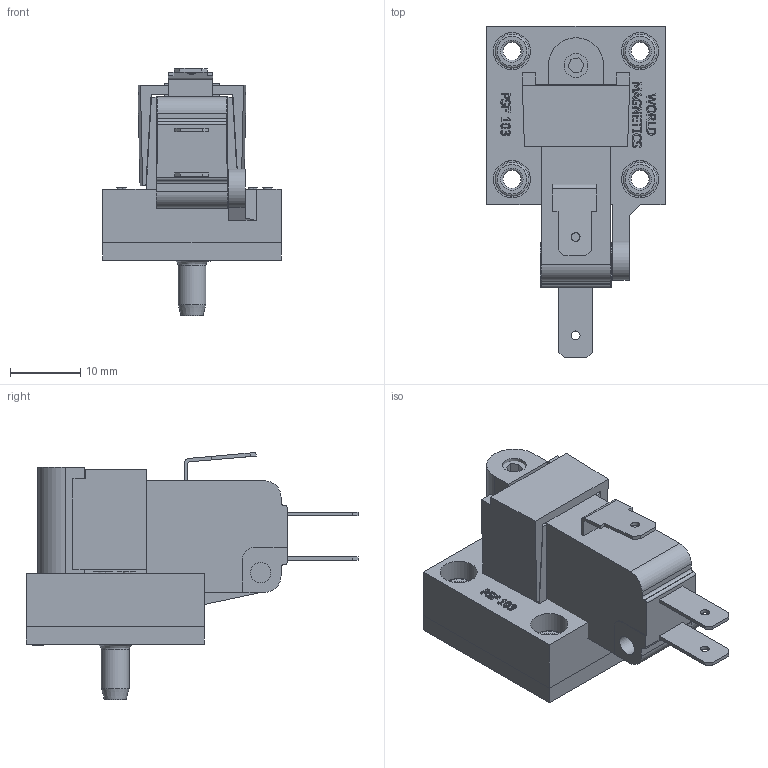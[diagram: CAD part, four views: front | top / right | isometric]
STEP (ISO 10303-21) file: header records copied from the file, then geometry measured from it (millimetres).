
FILE_DESCRIPTION((''),'2;1');
FILE_NAME('G:\DRAWINGS\SWITCH\INVENTOR DRAWINGS\WORLD MAGNETICS SWITCH\WM SALES STP FILES\901X.stp','2011-05-19T12:09:31',('dale'),(''),'Autodesk Inventor 2009','Autodesk Inventor 2009','');
FILE_SCHEMA(('AUTOMOTIVE_DESIGN { 1 0 10303 214 1 1 1 1 }'));
Length unit declared in the file: inch
Products named in the file (7): 901X; 60942-STP; 60813-STP; 60339-STP; 60193; 60016; 60344
Assembly tree (9 placements, depth 2):
  901X
    60942-STP
    60813-STP
    60339-STP
    60193  x4
    60016
    60344
Bounding box: 25.4 x 47.27 x 35.17 mm (x, y, z)
Volume: 12004.5 mm3; surface area: 9598.9 mm2
Topology: 10 solids, 10 shells, 634 faces, 1615 edges, 1064 vertices
Faces by surface type: plane 363, bspline 198, cylinder 54, torus 16, cone 3
Full cylindrical faces by diameter (mm): 1.27 x3, 1.575 x1, 2.565 x4, 2.896 x1, 3.073 x4, 3.372 x1, 3.962 x1, 4.166 x1, 4.572 x4, 4.826 x4, 5.08 x4
Entity records: 19575 total; most frequent: CARTESIAN_POINT 6077, ORIENTED_EDGE 2940, DIRECTION 2120, EDGE_CURVE 1470, VECTOR 1054, LINE 1054, VERTEX_POINT 1002, EDGE_LOOP 704
